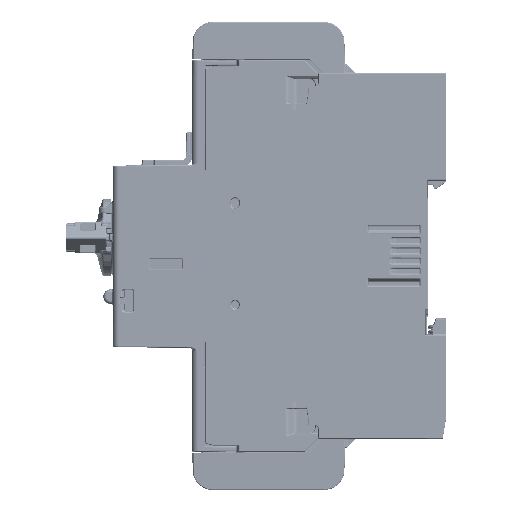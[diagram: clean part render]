
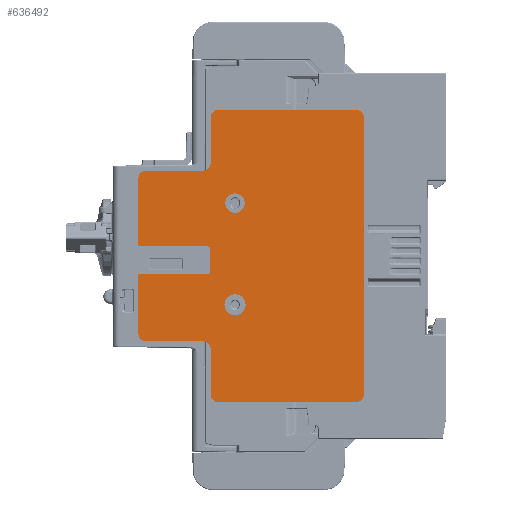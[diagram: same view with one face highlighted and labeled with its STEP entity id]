
A CAD part, left-side view. The second image highlights one B-rep face of the part: STEP entity #636492.
In plain terms, the highlighted planar face has unit normal (-1, 0, 0).
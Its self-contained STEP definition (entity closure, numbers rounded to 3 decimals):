
#172660=CARTESIAN_POINT('',(-22.43,-3.48,34.));
#172661=DIRECTION('',(1.,0.,0.));
#172662=DIRECTION('',(0.,1.,0.));
#172663=AXIS2_PLACEMENT_3D('',#172660,#172661,#172662);
#172665=DIRECTION('',(0.,-1.,0.));
#172666=VECTOR('',#172665,33.7);
#172667=CARTESIAN_POINT('',(-22.43,-3.48,36.));
#172668=LINE('',#172667,#172666);
#172669=CARTESIAN_POINT('',(-22.43,-37.18,34.));
#172670=DIRECTION('',(1.,0.,0.));
#172671=DIRECTION('',(0.,0.,1.));
#172672=AXIS2_PLACEMENT_3D('',#172669,#172670,#172671);
#172674=DIRECTION('',(0.,0.,-1.));
#172675=VECTOR('',#172674,68.);
#172676=CARTESIAN_POINT('',(-22.43,-39.18,34.));
#172677=LINE('',#172676,#172675);
#172678=CARTESIAN_POINT('',(-22.43,-37.18,-34.));
#172679=DIRECTION('',(1.,0.,0.));
#172680=DIRECTION('',(0.,-1.,0.));
#172681=AXIS2_PLACEMENT_3D('',#172678,#172679,#172680);
#172683=DIRECTION('',(0.,1.,0.));
#172684=VECTOR('',#172683,33.7);
#172685=CARTESIAN_POINT('',(-22.43,-37.18,-36.));
#172686=LINE('',#172685,#172684);
#172687=CARTESIAN_POINT('',(-22.43,-3.48,-34.));
#172688=DIRECTION('',(1.,0.,0.));
#172689=DIRECTION('',(0.,0.,-1.));
#172690=AXIS2_PLACEMENT_3D('',#172687,#172688,#172689);
#172692=DIRECTION('',(0.,0.,1.));
#172693=VECTOR('',#172692,11.);
#172694=CARTESIAN_POINT('',(-22.43,-1.48,-34.));
#172695=LINE('',#172694,#172693);
#172696=CARTESIAN_POINT('',(-22.43,0.52,-23.));
#172697=DIRECTION('',(-1.,0.,0.));
#172698=DIRECTION('',(0.,-1.,0.));
#172699=AXIS2_PLACEMENT_3D('',#172696,#172697,#172698);
#172701=DIRECTION('',(0.,1.,0.));
#172702=VECTOR('',#172701,13.8);
#172703=CARTESIAN_POINT('',(-22.43,0.52,-21.));
#172704=LINE('',#172703,#172702);
#172705=CARTESIAN_POINT('',(-22.43,14.32,-19.));
#172706=DIRECTION('',(1.,0.,0.));
#172707=DIRECTION('',(0.,0.,-1.));
#172708=AXIS2_PLACEMENT_3D('',#172705,#172706,#172707);
#172710=DIRECTION('',(0.,0.,1.));
#172711=VECTOR('',#172710,14.);
#172712=CARTESIAN_POINT('',(-22.43,16.32,-19.));
#172713=LINE('',#172712,#172711);
#172714=CARTESIAN_POINT('',(-22.43,15.72,-5.));
#172715=DIRECTION('',(1.,0.,0.));
#172716=DIRECTION('',(0.,1.,0.));
#172717=AXIS2_PLACEMENT_3D('',#172714,#172715,#172716);
#172719=DIRECTION('',(0.,-1.,0.));
#172720=VECTOR('',#172719,16.4);
#172721=CARTESIAN_POINT('',(-22.43,15.72,-4.4));
#172722=LINE('',#172721,#172720);
#172723=CARTESIAN_POINT('',(-22.43,-0.68,-3.8));
#172724=DIRECTION('',(-1.,0.,0.));
#172725=DIRECTION('',(0.,0.,-1.));
#172726=AXIS2_PLACEMENT_3D('',#172723,#172724,#172725);
#172728=DIRECTION('',(0.,0.,1.));
#172729=VECTOR('',#172728,5.6);
#172730=CARTESIAN_POINT('',(-22.43,-1.28,-3.8));
#172731=LINE('',#172730,#172729);
#172732=CARTESIAN_POINT('',(-22.43,-0.68,1.8));
#172733=DIRECTION('',(-1.,0.,0.));
#172734=DIRECTION('',(0.,-1.,0.));
#172735=AXIS2_PLACEMENT_3D('',#172732,#172733,#172734);
#172737=DIRECTION('',(0.,1.,0.));
#172738=VECTOR('',#172737,16.4);
#172739=CARTESIAN_POINT('',(-22.43,-0.68,2.4));
#172740=LINE('',#172739,#172738);
#172741=CARTESIAN_POINT('',(-22.43,15.72,3.));
#172742=DIRECTION('',(1.,0.,0.));
#172743=DIRECTION('',(0.,0.,-1.));
#172744=AXIS2_PLACEMENT_3D('',#172741,#172742,#172743);
#172746=DIRECTION('',(0.,0.,1.));
#172747=VECTOR('',#172746,16.);
#172748=CARTESIAN_POINT('',(-22.43,16.32,3.));
#172749=LINE('',#172748,#172747);
#172750=CARTESIAN_POINT('',(-22.43,14.32,19.));
#172751=DIRECTION('',(1.,0.,0.));
#172752=DIRECTION('',(0.,1.,0.));
#172753=AXIS2_PLACEMENT_3D('',#172750,#172751,#172752);
#172755=DIRECTION('',(0.,-1.,0.));
#172756=VECTOR('',#172755,13.8);
#172757=CARTESIAN_POINT('',(-22.43,14.32,21.));
#172758=LINE('',#172757,#172756);
#172759=CARTESIAN_POINT('',(-22.43,0.52,23.));
#172760=DIRECTION('',(-1.,0.,0.));
#172761=DIRECTION('',(0.,0.,-1.));
#172762=AXIS2_PLACEMENT_3D('',#172759,#172760,#172761);
#172764=DIRECTION('',(0.,0.,1.));
#172765=VECTOR('',#172764,11.);
#172766=CARTESIAN_POINT('',(-22.43,-1.48,23.));
#172767=LINE('',#172766,#172765);
#172768=CARTESIAN_POINT('',(-22.43,-7.48,13.));
#172769=DIRECTION('',(-1.,0.,0.));
#172770=DIRECTION('',(0.,0.,-1.));
#172771=AXIS2_PLACEMENT_3D('',#172768,#172769,#172770);
#172773=CARTESIAN_POINT('',(-22.43,-7.48,13.));
#172774=DIRECTION('',(-1.,0.,0.));
#172775=DIRECTION('',(0.,0.,1.));
#172776=AXIS2_PLACEMENT_3D('',#172773,#172774,#172775);
#172778=CARTESIAN_POINT('',(-22.43,-7.48,-12.));
#172779=DIRECTION('',(-1.,0.,0.));
#172780=DIRECTION('',(0.,0.,-1.));
#172781=AXIS2_PLACEMENT_3D('',#172778,#172779,#172780);
#172783=CARTESIAN_POINT('',(-22.43,-7.48,-12.));
#172784=DIRECTION('',(-1.,0.,0.));
#172785=DIRECTION('',(0.,0.,1.));
#172786=AXIS2_PLACEMENT_3D('',#172783,#172784,#172785);
#394825=CARTESIAN_POINT('',(-22.43,-37.18,36.));
#394826=VERTEX_POINT('',#394825);
#394827=CARTESIAN_POINT('',(-22.43,-3.48,36.));
#394828=VERTEX_POINT('',#394827);
#439519=CARTESIAN_POINT('',(-22.43,-39.18,-34.));
#439520=VERTEX_POINT('',#439519);
#439521=CARTESIAN_POINT('',(-22.43,-39.18,34.));
#439522=VERTEX_POINT('',#439521);
#439523=CARTESIAN_POINT('',(-22.43,-37.18,-36.));
#439524=VERTEX_POINT('',#439523);
#439525=CARTESIAN_POINT('',(-22.43,-3.48,-36.));
#439526=VERTEX_POINT('',#439525);
#439527=CARTESIAN_POINT('',(-22.43,-1.48,-34.));
#439528=VERTEX_POINT('',#439527);
#439529=CARTESIAN_POINT('',(-22.43,-1.48,-23.));
#439530=VERTEX_POINT('',#439529);
#439531=CARTESIAN_POINT('',(-22.43,0.52,-21.));
#439532=VERTEX_POINT('',#439531);
#439533=CARTESIAN_POINT('',(-22.43,14.32,-21.));
#439534=VERTEX_POINT('',#439533);
#439535=CARTESIAN_POINT('',(-22.43,16.32,-19.));
#439536=VERTEX_POINT('',#439535);
#439537=CARTESIAN_POINT('',(-22.43,16.32,-5.));
#439538=VERTEX_POINT('',#439537);
#439539=CARTESIAN_POINT('',(-22.43,15.72,-4.4));
#439540=VERTEX_POINT('',#439539);
#439541=CARTESIAN_POINT('',(-22.43,-0.68,-4.4));
#439542=VERTEX_POINT('',#439541);
#439543=CARTESIAN_POINT('',(-22.43,-1.28,-3.8));
#439544=VERTEX_POINT('',#439543);
#439545=CARTESIAN_POINT('',(-22.43,-1.28,1.8));
#439546=VERTEX_POINT('',#439545);
#439547=CARTESIAN_POINT('',(-22.43,-0.68,2.4));
#439548=VERTEX_POINT('',#439547);
#439549=CARTESIAN_POINT('',(-22.43,15.72,2.4));
#439550=VERTEX_POINT('',#439549);
#439551=CARTESIAN_POINT('',(-22.43,16.32,3.));
#439552=VERTEX_POINT('',#439551);
#439553=CARTESIAN_POINT('',(-22.43,16.32,19.));
#439554=VERTEX_POINT('',#439553);
#439555=CARTESIAN_POINT('',(-22.43,14.32,21.));
#439556=VERTEX_POINT('',#439555);
#439557=CARTESIAN_POINT('',(-22.43,0.52,21.));
#439558=VERTEX_POINT('',#439557);
#439559=CARTESIAN_POINT('',(-22.43,-1.48,23.));
#439560=VERTEX_POINT('',#439559);
#439561=CARTESIAN_POINT('',(-22.43,-1.48,34.));
#439562=VERTEX_POINT('',#439561);
#439563=CARTESIAN_POINT('',(-22.43,-7.48,10.6));
#439564=CARTESIAN_POINT('',(-22.43,-7.48,15.4));
#439565=VERTEX_POINT('',#439563);
#439566=VERTEX_POINT('',#439564);
#439567=CARTESIAN_POINT('',(-22.43,-7.48,-14.6));
#439568=CARTESIAN_POINT('',(-22.43,-7.48,-9.4));
#439569=VERTEX_POINT('',#439567);
#439570=VERTEX_POINT('',#439568);
#636432=CARTESIAN_POINT('',(-22.43,-39.18,0.));
#636433=DIRECTION('',(-1.,0.,0.));
#636434=DIRECTION('',(0.,0.,1.));
#636435=AXIS2_PLACEMENT_3D('',#636432,#636433,#636434);
#636436=PLANE('',#636435);
#636438=ORIENTED_EDGE('',*,*,#636437,.T.);
#636439=ORIENTED_EDGE('',*,*,#636412,.T.);
#636440=ORIENTED_EDGE('',*,*,#636426,.T.);
#636441=ORIENTED_EDGE('',*,*,#510177,.T.);
#636442=ORIENTED_EDGE('',*,*,#510192,.T.);
#636443=ORIENTED_EDGE('',*,*,#510207,.T.);
#636445=ORIENTED_EDGE('',*,*,#636444,.T.);
#636446=ORIENTED_EDGE('',*,*,#510265,.T.);
#636447=ORIENTED_EDGE('',*,*,#510282,.T.);
#636449=ORIENTED_EDGE('',*,*,#636448,.T.);
#636451=ORIENTED_EDGE('',*,*,#636450,.T.);
#636453=ORIENTED_EDGE('',*,*,#636452,.T.);
#636455=ORIENTED_EDGE('',*,*,#636454,.T.);
#636457=ORIENTED_EDGE('',*,*,#636456,.T.);
#636459=ORIENTED_EDGE('',*,*,#636458,.T.);
#636461=ORIENTED_EDGE('',*,*,#636460,.T.);
#636463=ORIENTED_EDGE('',*,*,#636462,.T.);
#636465=ORIENTED_EDGE('',*,*,#636464,.T.);
#636467=ORIENTED_EDGE('',*,*,#636466,.T.);
#636469=ORIENTED_EDGE('',*,*,#636468,.T.);
#636471=ORIENTED_EDGE('',*,*,#636470,.T.);
#636473=ORIENTED_EDGE('',*,*,#636472,.T.);
#636475=ORIENTED_EDGE('',*,*,#636474,.T.);
#636477=ORIENTED_EDGE('',*,*,#636476,.T.);
#636478=EDGE_LOOP('',(#636438,#636439,#636440,#636441,#636442,#636443,#636445,
#636446,#636447,#636449,#636451,#636453,#636455,#636457,#636459,#636461,#636463,
#636465,#636467,#636469,#636471,#636473,#636475,#636477));
#636479=FACE_OUTER_BOUND('',#636478,.F.);
#636481=ORIENTED_EDGE('',*,*,#636480,.T.);
#636483=ORIENTED_EDGE('',*,*,#636482,.T.);
#636484=EDGE_LOOP('',(#636481,#636483));
#636485=FACE_BOUND('',#636484,.F.);
#636487=ORIENTED_EDGE('',*,*,#636486,.T.);
#636489=ORIENTED_EDGE('',*,*,#636488,.T.);
#636490=EDGE_LOOP('',(#636487,#636489));
#636491=FACE_BOUND('',#636490,.F.);
#636492=ADVANCED_FACE('',(#636479,#636485,#636491),#636436,.T.);
#172664=CIRCLE('',#172663,2.);
#172673=CIRCLE('',#172672,2.);
#172682=CIRCLE('',#172681,2.);
#172691=CIRCLE('',#172690,2.);
#172700=CIRCLE('',#172699,2.);
#172709=CIRCLE('',#172708,2.);
#172718=CIRCLE('',#172717,0.6);
#172727=CIRCLE('',#172726,0.6);
#172736=CIRCLE('',#172735,0.6);
#172745=CIRCLE('',#172744,0.6);
#172754=CIRCLE('',#172753,2.);
#172763=CIRCLE('',#172762,2.);
#172772=CIRCLE('',#172771,2.4);
#172777=CIRCLE('',#172776,2.4);
#172782=CIRCLE('',#172781,2.6);
#172787=CIRCLE('',#172786,2.6);
#510177=EDGE_CURVE('',#439522,#439520,#172677,.T.);
#510192=EDGE_CURVE('',#439520,#439524,#172682,.T.);
#510207=EDGE_CURVE('',#439524,#439526,#172686,.T.);
#510265=EDGE_CURVE('',#439528,#439530,#172695,.T.);
#510282=EDGE_CURVE('',#439530,#439532,#172700,.T.);
#636412=EDGE_CURVE('',#394828,#394826,#172668,.T.);
#636426=EDGE_CURVE('',#394826,#439522,#172673,.T.);
#636437=EDGE_CURVE('',#439562,#394828,#172664,.T.);
#636444=EDGE_CURVE('',#439526,#439528,#172691,.T.);
#636448=EDGE_CURVE('',#439532,#439534,#172704,.T.);
#636450=EDGE_CURVE('',#439534,#439536,#172709,.T.);
#636452=EDGE_CURVE('',#439536,#439538,#172713,.T.);
#636454=EDGE_CURVE('',#439538,#439540,#172718,.T.);
#636456=EDGE_CURVE('',#439540,#439542,#172722,.T.);
#636458=EDGE_CURVE('',#439542,#439544,#172727,.T.);
#636460=EDGE_CURVE('',#439544,#439546,#172731,.T.);
#636462=EDGE_CURVE('',#439546,#439548,#172736,.T.);
#636464=EDGE_CURVE('',#439548,#439550,#172740,.T.);
#636466=EDGE_CURVE('',#439550,#439552,#172745,.T.);
#636468=EDGE_CURVE('',#439552,#439554,#172749,.T.);
#636470=EDGE_CURVE('',#439554,#439556,#172754,.T.);
#636472=EDGE_CURVE('',#439556,#439558,#172758,.T.);
#636474=EDGE_CURVE('',#439558,#439560,#172763,.T.);
#636476=EDGE_CURVE('',#439560,#439562,#172767,.T.);
#636480=EDGE_CURVE('',#439565,#439566,#172772,.T.);
#636482=EDGE_CURVE('',#439566,#439565,#172777,.T.);
#636486=EDGE_CURVE('',#439569,#439570,#172782,.T.);
#636488=EDGE_CURVE('',#439570,#439569,#172787,.T.);
